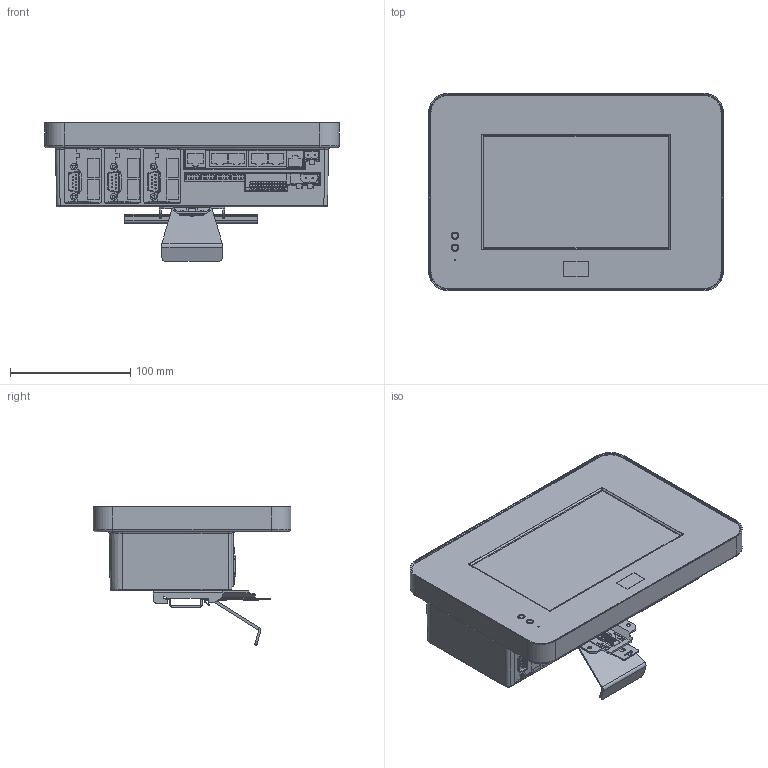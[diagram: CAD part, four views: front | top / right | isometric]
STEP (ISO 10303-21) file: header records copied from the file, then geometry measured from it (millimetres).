
FILE_DESCRIPTION(('Creo Elements/Direct Modeling STEP Export'),'2;1');
FILE_NAME('CMU2.stp','2024-02-15T11:15:13',(''),(''),'PTC Creo Elements/Direct Modeling STEP processor for AP214 (Solid Model)','PTC Creo Elements/Direct Modeling 19.0 09-May-2014 (C) Parametric Technology GmbH','');
FILE_SCHEMA(('AUTOMOTIVE_DESIGN { 1 0 10303 214 1 1 1 1 }'));
Length unit declared in the file: millimetre
Products named in the file (62): CMU2-D-0811.prt; ADMI1F042321JHOF_2.PRT; ADMI1F042321JHOF.ASM; CMU2-ASM-20210701.stp; a板; LCD-1_14.PRT; PCB_1_9.PRT; PHONE_JACK_2_2.PRT; PHONE_JACK_1_1.PRT; ME030-50-2_3.PRT.10; JS100107_1_1_ASM_3_PRT_1.PRT; HS112_1_ASM_2_PRT_1.PRT; EE_2_PRT_10_1.PRT.1; a1; c板; PCB_24_PRT_3.PRT; 20; _____2_2.PRT; EXTRUDED-183775_PRT_2.PRT; 703830480_ASM_ASM_1.ASM; EXTRUDED-180205_PRT_2.PRT; 703830960_ASM_ASM_1.ASM; EXTRUDED-177848_PRT_2.PRT; 1FF1-DH2L-04_2895032743_ASM_ASM.ASM; EXTRUDED-176218_PRT_2.PRT; 1FF1-DH2L-04_2931611402_ASM_ASM.ASM; EXTRUDED-174598_PRT_2.PRT; 1FF1-DH2L-04_2786087784_ASM_ASM.ASM.16; EXTRUDED-173914_PRT_2.PRT; 1FF1-DH2L-04_ASM_ASM_1.ASM; CN56_ASM_ASM_1.ASM.1.1.1; ME030-508_2.PRT; a2; b1板; CMU2-PCBD1_2.PRT; p3.1.1.1; eeee; SUB-9PIN.1; PCB-D1_ASM_7.ASM.12; 44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
Assembly tree (83 placements, depth 8):
  CMU2-D-0811.stp
    ÝƒÛy.1
      ñóÙy
      p3.2
      p1
      ddd
    p1
    CMU2-單機
      p1.1.3  x3
      MSBO1351  x2
      CMU2-SINGLE-V3_ASM.stp
        CMU2-SINGLE-V3_ASM_43.ASM
          DIN_ASM_2.ASM
            M3螺母.1.1  x3
            M3螺母.3
            M3螺母.2
            M3螺母
            DIN_1_ASM_2.ASM
              DDD_1.PRT
      p4
      p1.1.1  x3
      a1
        44
        PCB-D1_ASM_7.ASM.12  x3
          SUB-9PIN.1
          eeee
          p3.1.1.1
          CMU2-PCBD1_2.PRT
        b1板
          a2
            ME030-508_2.PRT
            CN56_ASM_ASM_1.ASM.1.1.1  x4
              1FF1-DH2L-04_ASM_ASM_1.ASM
                EXTRUDED-173914_PRT_2.PRT
              1FF1-DH2L-04_2786087784_ASM_ASM.ASM.16
                EXTRUDED-174598_PRT_2.PRT
              1FF1-DH2L-04_2931611402_ASM_ASM.ASM
                EXTRUDED-176218_PRT_2.PRT
              1FF1-DH2L-04_2895032743_ASM_ASM.ASM
                EXTRUDED-177848_PRT_2.PRT
              703830960_ASM_ASM_1.ASM
                EXTRUDED-180205_PRT_2.PRT
              703830480_ASM_ASM_1.ASM
                EXTRUDED-183775_PRT_2.PRT
            _____2_2.PRT
          20
          PCB_24_PRT_3.PRT
        c板
          a1
            EE_2_PRT_10_1.PRT.1
            HS112_1_ASM_2_PRT_1.PRT
            JS100107_1_1_ASM_3_PRT_1.PRT
            ME030-50-2_3.PRT.10
            PHONE_JACK_1_1.PRT  x2
            PHONE_JACK_2_2.PRT
          PCB_1_9.PRT
        LCD-1_14.PRT
        a板
    CMU2-ASM-20210701.stp
      ADMI1F042321JHOF.ASM
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Bounding box: 245 x 164.2 x 115.39 mm (x, y, z)
Volume: 590739.8 mm3; surface area: 518146.4 mm2
Topology: 105 solids, 107 shells, 4006 faces, 10811 edges, 7070 vertices
Faces by surface type: plane 2900, cylinder 734, cone 208, torus 120, bspline 28, sphere 16
Entity records: 195504 total; most frequent: CARTESIAN_POINT 134348, ORIENTED_EDGE 12708, DIRECTION 11525, EDGE_CURVE 6366, VECTOR 4507, LINE 4507, VERTEX_POINT 4146, AXIS2_PLACEMENT_3D 3509
